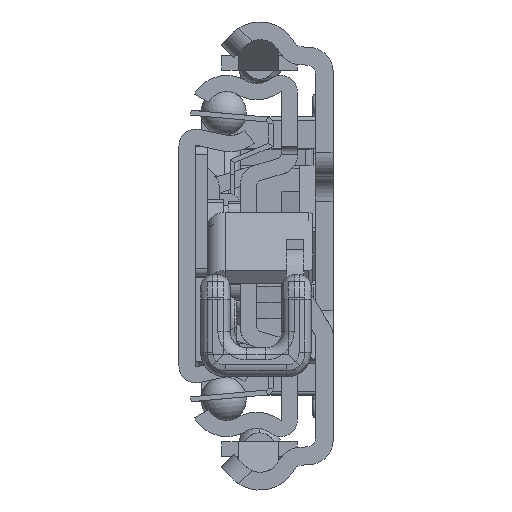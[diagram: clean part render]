
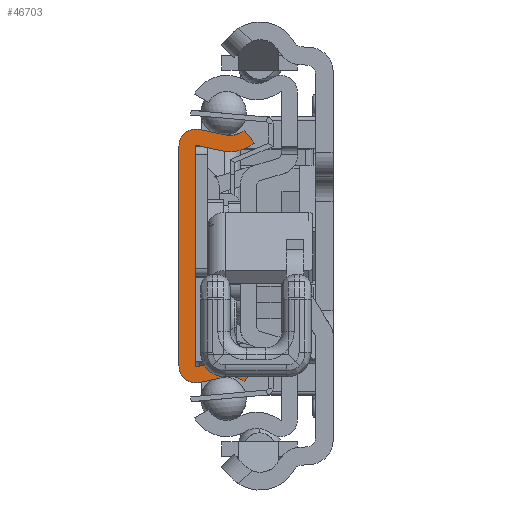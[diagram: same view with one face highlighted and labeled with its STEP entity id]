
A CAD part, left-side view. The second image highlights one B-rep face of the part: STEP entity #46703.
In plain terms, the highlighted planar face has unit normal (-1, 0, 0).
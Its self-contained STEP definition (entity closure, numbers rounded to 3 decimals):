
#42078=CARTESIAN_POINT('',(0.,-6.29,-17.65));
#42079=DIRECTION('',(-1.,0.,0.));
#42080=DIRECTION('',(0.,-0.629,0.778));
#42081=AXIS2_PLACEMENT_3D('',#42078,#42079,#42080);
#42083=DIRECTION('',(0.,0.977,-0.213));
#42084=VECTOR('',#42083,3.218);
#42085=CARTESIAN_POINT('',(0.,-5.692,-14.915));
#42086=LINE('',#42085,#42084);
#42087=CARTESIAN_POINT('',(0.,-2.1,-13.55));
#42088=DIRECTION('',(1.,0.,0.));
#42089=DIRECTION('',(0.,-0.213,-0.977));
#42090=AXIS2_PLACEMENT_3D('',#42087,#42088,#42089);
#42092=DIRECTION('',(0.,0.,1.));
#42093=VECTOR('',#42092,27.1);
#42094=CARTESIAN_POINT('',(0.,0.,-13.55));
#42095=LINE('',#42094,#42093);
#42096=CARTESIAN_POINT('',(0.,-2.1,13.55));
#42097=DIRECTION('',(1.,0.,0.));
#42098=DIRECTION('',(0.,1.,0.));
#42099=AXIS2_PLACEMENT_3D('',#42096,#42097,#42098);
#42101=DIRECTION('',(0.,-0.977,-0.213));
#42102=VECTOR('',#42101,3.218);
#42103=CARTESIAN_POINT('',(0.,-2.548,15.602));
#42104=LINE('',#42103,#42102);
#42105=CARTESIAN_POINT('',(0.,-6.29,17.65));
#42106=DIRECTION('',(-1.,0.,0.));
#42107=DIRECTION('',(0.,0.213,-0.977));
#42108=AXIS2_PLACEMENT_3D('',#42105,#42106,#42107);
#42110=DIRECTION('',(0.,-0.629,-0.778));
#42111=VECTOR('',#42110,2.);
#42112=CARTESIAN_POINT('',(0.,-8.05,15.472));
#42113=LINE('',#42112,#42111);
#42114=CARTESIAN_POINT('',(0.,-6.29,17.65));
#42115=DIRECTION('',(1.,0.,0.));
#42116=DIRECTION('',(0.,-0.629,-0.778));
#42117=AXIS2_PLACEMENT_3D('',#42114,#42115,#42116);
#42119=DIRECTION('',(0.,0.977,0.213));
#42120=VECTOR('',#42119,3.218);
#42121=CARTESIAN_POINT('',(0.,-5.265,12.961));
#42122=LINE('',#42121,#42120);
#42123=CARTESIAN_POINT('',(0.,-2.1,13.55));
#42124=DIRECTION('',(-1.,0.,0.));
#42125=DIRECTION('',(0.,-0.213,0.977));
#42126=AXIS2_PLACEMENT_3D('',#42123,#42124,#42125);
#42128=DIRECTION('',(0.,0.,-1.));
#42129=VECTOR('',#42128,27.1);
#42130=CARTESIAN_POINT('',(0.,-2.,13.55));
#42131=LINE('',#42130,#42129);
#42132=CARTESIAN_POINT('',(0.,-2.1,-13.55));
#42133=DIRECTION('',(-1.,0.,0.));
#42134=DIRECTION('',(0.,1.,0.));
#42135=AXIS2_PLACEMENT_3D('',#42132,#42133,#42134);
#42137=DIRECTION('',(0.,-0.977,0.213));
#42138=VECTOR('',#42137,3.218);
#42139=CARTESIAN_POINT('',(0.,-2.121,-13.648));
#42140=LINE('',#42139,#42138);
#42141=CARTESIAN_POINT('',(0.,-6.29,-17.65));
#42142=DIRECTION('',(1.,0.,0.));
#42143=DIRECTION('',(0.,0.213,0.977));
#42144=AXIS2_PLACEMENT_3D('',#42141,#42142,#42143);
#42146=DIRECTION('',(0.,0.629,-0.778));
#42147=VECTOR('',#42146,2.);
#42148=CARTESIAN_POINT('',(0.,-9.307,-13.917));
#42149=LINE('',#42148,#42147);
#45826=CARTESIAN_POINT('',(0.,-8.05,-15.472));
#45827=CARTESIAN_POINT('',(0.,-5.692,-14.915));
#45828=VERTEX_POINT('',#45826);
#45829=VERTEX_POINT('',#45827);
#45830=CARTESIAN_POINT('',(0.,-2.548,-15.602));
#45831=VERTEX_POINT('',#45830);
#45832=CARTESIAN_POINT('',(0.,0.,-13.55));
#45833=VERTEX_POINT('',#45832);
#45834=CARTESIAN_POINT('',(0.,0.,13.55));
#45835=VERTEX_POINT('',#45834);
#45836=CARTESIAN_POINT('',(0.,-2.548,15.602));
#45837=VERTEX_POINT('',#45836);
#45838=CARTESIAN_POINT('',(0.,-5.692,14.915));
#45839=VERTEX_POINT('',#45838);
#45840=CARTESIAN_POINT('',(0.,-8.05,15.472));
#45841=VERTEX_POINT('',#45840);
#45842=CARTESIAN_POINT('',(0.,-9.307,13.917));
#45843=VERTEX_POINT('',#45842);
#45844=CARTESIAN_POINT('',(0.,-5.265,12.961));
#45845=VERTEX_POINT('',#45844);
#45846=CARTESIAN_POINT('',(0.,-2.121,13.648));
#45847=VERTEX_POINT('',#45846);
#45848=CARTESIAN_POINT('',(0.,-2.,13.55));
#45849=VERTEX_POINT('',#45848);
#45850=CARTESIAN_POINT('',(0.,-2.,-13.55));
#45851=VERTEX_POINT('',#45850);
#45852=CARTESIAN_POINT('',(0.,-2.121,-13.648));
#45853=VERTEX_POINT('',#45852);
#45854=CARTESIAN_POINT('',(0.,-5.265,-12.961));
#45855=VERTEX_POINT('',#45854);
#45856=CARTESIAN_POINT('',(0.,-9.307,-13.917));
#45857=VERTEX_POINT('',#45856);
#46664=CARTESIAN_POINT('',(0.,0.,0.));
#46665=DIRECTION('',(1.,0.,0.));
#46666=DIRECTION('',(0.,-1.,0.));
#46667=AXIS2_PLACEMENT_3D('',#46664,#46665,#46666);
#46668=PLANE('',#46667);
#46670=ORIENTED_EDGE('',*,*,#46669,.T.);
#46672=ORIENTED_EDGE('',*,*,#46671,.T.);
#46674=ORIENTED_EDGE('',*,*,#46673,.T.);
#46676=ORIENTED_EDGE('',*,*,#46675,.T.);
#46678=ORIENTED_EDGE('',*,*,#46677,.T.);
#46680=ORIENTED_EDGE('',*,*,#46679,.T.);
#46682=ORIENTED_EDGE('',*,*,#46681,.T.);
#46684=ORIENTED_EDGE('',*,*,#46683,.T.);
#46686=ORIENTED_EDGE('',*,*,#46685,.T.);
#46688=ORIENTED_EDGE('',*,*,#46687,.T.);
#46690=ORIENTED_EDGE('',*,*,#46689,.T.);
#46692=ORIENTED_EDGE('',*,*,#46691,.T.);
#46694=ORIENTED_EDGE('',*,*,#46693,.T.);
#46696=ORIENTED_EDGE('',*,*,#46695,.T.);
#46698=ORIENTED_EDGE('',*,*,#46697,.T.);
#46700=ORIENTED_EDGE('',*,*,#46699,.T.);
#46701=EDGE_LOOP('',(#46670,#46672,#46674,#46676,#46678,#46680,#46682,#46684,
#46686,#46688,#46690,#46692,#46694,#46696,#46698,#46700));
#46702=FACE_OUTER_BOUND('',#46701,.F.);
#42082=CIRCLE('',#42081,2.8);
#42091=CIRCLE('',#42090,2.1);
#42100=CIRCLE('',#42099,2.1);
#42109=CIRCLE('',#42108,2.8);
#42118=CIRCLE('',#42117,4.8);
#42127=CIRCLE('',#42126,0.1);
#42136=CIRCLE('',#42135,0.1);
#42145=CIRCLE('',#42144,4.8);
#46669=EDGE_CURVE('',#45828,#45829,#42082,.T.);
#46671=EDGE_CURVE('',#45829,#45831,#42086,.T.);
#46673=EDGE_CURVE('',#45831,#45833,#42091,.T.);
#46675=EDGE_CURVE('',#45833,#45835,#42095,.T.);
#46677=EDGE_CURVE('',#45835,#45837,#42100,.T.);
#46679=EDGE_CURVE('',#45837,#45839,#42104,.T.);
#46681=EDGE_CURVE('',#45839,#45841,#42109,.T.);
#46683=EDGE_CURVE('',#45841,#45843,#42113,.T.);
#46685=EDGE_CURVE('',#45843,#45845,#42118,.T.);
#46687=EDGE_CURVE('',#45845,#45847,#42122,.T.);
#46689=EDGE_CURVE('',#45847,#45849,#42127,.T.);
#46691=EDGE_CURVE('',#45849,#45851,#42131,.T.);
#46693=EDGE_CURVE('',#45851,#45853,#42136,.T.);
#46695=EDGE_CURVE('',#45853,#45855,#42140,.T.);
#46697=EDGE_CURVE('',#45855,#45857,#42145,.T.);
#46699=EDGE_CURVE('',#45857,#45828,#42149,.T.);
#46703=ADVANCED_FACE('',(#46702),#46668,.F.);
